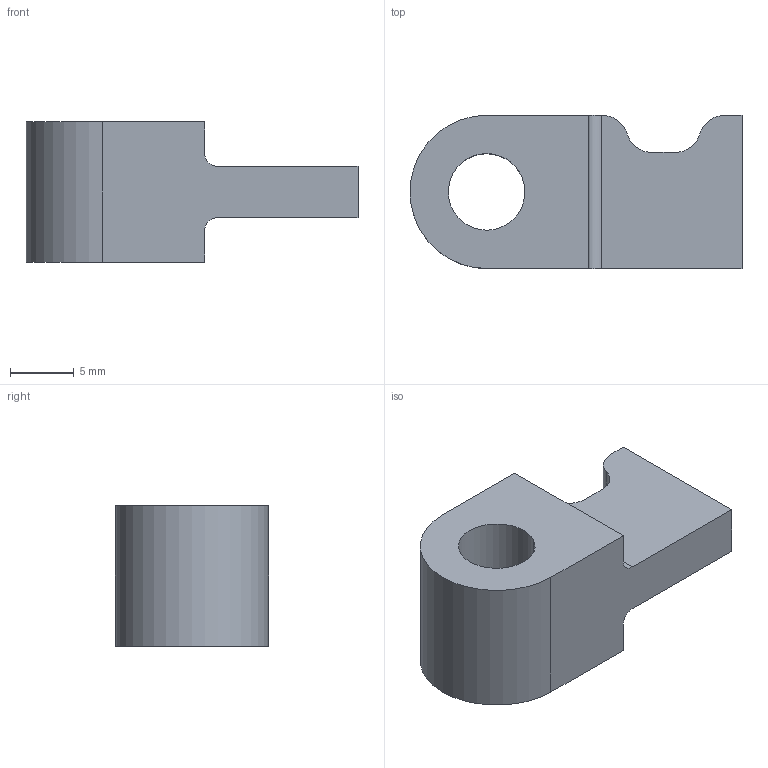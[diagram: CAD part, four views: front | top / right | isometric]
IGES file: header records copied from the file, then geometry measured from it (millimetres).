
Start section: START RECORD GO HERE.
Global section: file name: CLIQUETS.igs; native system: IBM CATIA IGES - CATIA Version 5 Release 18 ; preprocessor: CATIA Version 5 Release 18 ; author: Propriétaire; organization: FUJITSU-79916BB; date: 20090111.155643; units: millimetre
Bounding box: 26 x 12 x 11 mm (x, y, z)
Surface area: 1323.3 mm2 (no closed solid volume)
Topology: 0 solids, 0 shells, 20 faces, 112 edges, 112 vertices
Faces by surface type: plane 11, revolution 9
